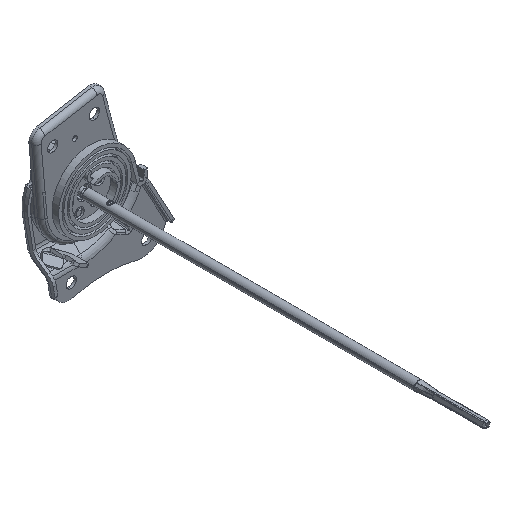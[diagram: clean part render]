
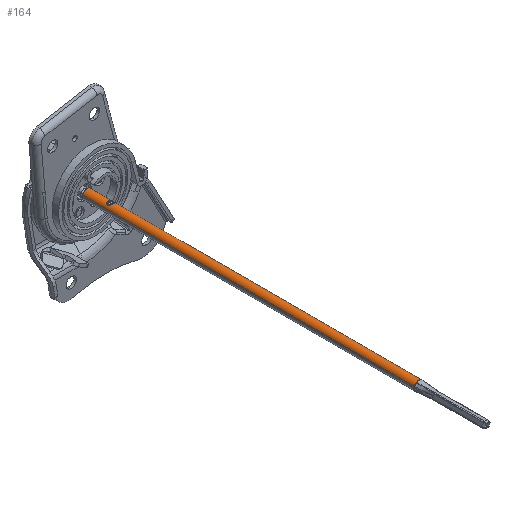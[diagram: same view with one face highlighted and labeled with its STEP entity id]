
A CAD part, isometric view. The second image highlights one B-rep face of the part: STEP entity #164.
In plain terms, the highlighted cylindrical face has radius 5 mm (diameter 10 mm), a partial arc.
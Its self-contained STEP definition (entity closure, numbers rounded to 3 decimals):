
#52=VECTOR('Line Direction',#51,1.) ;
#68=VECTOR('Line Direction',#67,1.) ;
#46=DIRECTION('Axis2P3D Direction',(0.002,-1.,0.)) ;
#47=DIRECTION('Axis2P3D XDirection',(0.964,0.001,-0.267)) ;
#51=DIRECTION('Vector Direction',(0.002,-1.,0.)) ;
#60=DIRECTION('Axis2P3D Direction',(0.002,-1.,0.)) ;
#67=DIRECTION('Vector Direction',(0.002,-1.,0.)) ;
#74=DIRECTION('Axis2P3D Direction',(0.002,-1.,0.)) ;
#81=DIRECTION('Axis2P3D Direction',(0.002,-1.,0.)) ;
#88=DIRECTION('Axis2P3D Direction',(0.002,-1.,0.)) ;
#45=CARTESIAN_POINT('Axis2P3D Location',(669.194,-702.521,471.257)) ;
#50=CARTESIAN_POINT('Line Origine',(674.012,-702.514,469.921)) ;
#54=CARTESIAN_POINT('Vertex',(673.737,-525.526,469.92)) ;
#56=CARTESIAN_POINT('Vertex',(674.285,-878.282,469.921)) ;
#59=CARTESIAN_POINT('Axis2P3D Location',(668.919,-525.533,471.256)) ;
#63=CARTESIAN_POINT('Vertex',(664.101,-525.541,472.593)) ;
#66=CARTESIAN_POINT('Line Origine',(664.376,-702.529,472.593)) ;
#70=CARTESIAN_POINT('Vertex',(664.648,-878.297,472.594)) ;
#73=CARTESIAN_POINT('Axis2P3D Location',(669.467,-878.29,471.258)) ;
#77=CARTESIAN_POINT('Vertex',(667.005,-878.294,475.609)) ;
#80=CARTESIAN_POINT('Axis2P3D Location',(669.467,-878.29,471.258)) ;
#84=CARTESIAN_POINT('Vertex',(673.818,-878.283,473.72)) ;
#87=CARTESIAN_POINT('Axis2P3D Location',(669.467,-878.29,471.258)) ;
#101=CARTESIAN_POINT('Control Point',(667.618,-548.604,476.075)) ;
#102=CARTESIAN_POINT('Control Point',(667.323,-548.715,475.993)) ;
#103=CARTESIAN_POINT('Control Point',(667.042,-548.851,475.89)) ;
#104=CARTESIAN_POINT('Control Point',(666.782,-549.018,475.772)) ;
#105=CARTESIAN_POINT('Control Point',(666.411,-549.349,475.569)) ;
#106=CARTESIAN_POINT('Control Point',(666.148,-549.78,475.396)) ;
#107=CARTESIAN_POINT('Control Point',(666.067,-549.958,475.338)) ;
#108=CARTESIAN_POINT('Control Point',(665.889,-550.521,475.207)) ;
#109=CARTESIAN_POINT('Control Point',(665.917,-551.143,475.223)) ;
#110=CARTESIAN_POINT('Control Point',(666.041,-551.535,475.325)) ;
#111=CARTESIAN_POINT('Control Point',(666.382,-552.098,475.56)) ;
#112=CARTESIAN_POINT('Control Point',(666.886,-552.495,475.815)) ;
#113=CARTESIAN_POINT('Control Point',(667.118,-552.634,475.915)) ;
#114=CARTESIAN_POINT('Control Point',(667.366,-552.75,476.003)) ;
#115=CARTESIAN_POINT('Control Point',(667.625,-552.846,476.075)) ;
#116=CARTESIAN_POINT('Vertex',(667.618,-548.604,476.075)) ;
#118=CARTESIAN_POINT('Vertex',(667.625,-552.846,476.075)) ;
#122=CARTESIAN_POINT('Control Point',(672.582,-548.596,474.698)) ;
#123=CARTESIAN_POINT('Control Point',(671.867,-548.223,475.451)) ;
#124=CARTESIAN_POINT('Control Point',(670.926,-547.986,476.064)) ;
#125=CARTESIAN_POINT('Control Point',(669.742,-547.988,476.394)) ;
#126=CARTESIAN_POINT('Control Point',(668.618,-548.228,476.352)) ;
#127=CARTESIAN_POINT('Control Point',(667.618,-548.604,476.075)) ;
#128=CARTESIAN_POINT('Vertex',(672.582,-548.596,474.698)) ;
#132=CARTESIAN_POINT('Control Point',(672.588,-552.839,474.698)) ;
#133=CARTESIAN_POINT('Control Point',(672.799,-552.728,474.476)) ;
#134=CARTESIAN_POINT('Control Point',(672.987,-552.592,474.243)) ;
#135=CARTESIAN_POINT('Control Point',(673.149,-552.425,474.008)) ;
#136=CARTESIAN_POINT('Control Point',(673.363,-552.094,473.642)) ;
#137=CARTESIAN_POINT('Control Point',(673.499,-551.664,473.358)) ;
#138=CARTESIAN_POINT('Control Point',(673.538,-551.486,473.266)) ;
#139=CARTESIAN_POINT('Control Point',(673.623,-550.923,473.062)) ;
#140=CARTESIAN_POINT('Control Point',(673.608,-550.301,473.09)) ;
#141=CARTESIAN_POINT('Control Point',(673.554,-549.909,473.24)) ;
#142=CARTESIAN_POINT('Control Point',(673.382,-549.345,473.617)) ;
#143=CARTESIAN_POINT('Control Point',(673.082,-548.948,474.095)) ;
#144=CARTESIAN_POINT('Control Point',(672.934,-548.809,474.301)) ;
#145=CARTESIAN_POINT('Control Point',(672.767,-548.693,474.503)) ;
#146=CARTESIAN_POINT('Control Point',(672.582,-548.596,474.698)) ;
#147=CARTESIAN_POINT('Vertex',(672.588,-552.839,474.698)) ;
#151=CARTESIAN_POINT('Control Point',(667.625,-552.846,476.075)) ;
#152=CARTESIAN_POINT('Control Point',(668.625,-553.219,476.352)) ;
#153=CARTESIAN_POINT('Control Point',(669.748,-553.455,476.393)) ;
#154=CARTESIAN_POINT('Control Point',(670.933,-553.454,476.066)) ;
#155=CARTESIAN_POINT('Control Point',(671.875,-553.214,475.451)) ;
#156=CARTESIAN_POINT('Control Point',(672.588,-552.839,474.698)) ;
#48=AXIS2_PLACEMENT_3D('Cylinder Axis2P3D',#45,#46,#47) ;
#61=AXIS2_PLACEMENT_3D('Circle Axis2P3D',#59,#60,$) ;
#75=AXIS2_PLACEMENT_3D('Circle Axis2P3D',#73,#74,$) ;
#82=AXIS2_PLACEMENT_3D('Circle Axis2P3D',#80,#81,$) ;
#89=AXIS2_PLACEMENT_3D('Circle Axis2P3D',#87,#88,$) ;
#163=FACE_BOUND('',#158,.T.) ;
#58=EDGE_CURVE('',#55,#57,#53,.T.) ;
#65=EDGE_CURVE('',#55,#64,#62,.T.) ;
#72=EDGE_CURVE('',#64,#71,#69,.T.) ;
#79=EDGE_CURVE('',#78,#71,#76,.T.) ;
#86=EDGE_CURVE('',#85,#78,#83,.T.) ;
#91=EDGE_CURVE('',#57,#85,#90,.T.) ;
#120=EDGE_CURVE('',#117,#119,#100,.T.) ;
#130=EDGE_CURVE('',#129,#117,#121,.T.) ;
#149=EDGE_CURVE('',#148,#129,#131,.T.) ;
#157=EDGE_CURVE('',#119,#148,#150,.T.) ;
#93=ORIENTED_EDGE('',*,*,#58,.F.) ;
#94=ORIENTED_EDGE('',*,*,#65,.T.) ;
#95=ORIENTED_EDGE('',*,*,#72,.T.) ;
#96=ORIENTED_EDGE('',*,*,#79,.F.) ;
#97=ORIENTED_EDGE('',*,*,#86,.F.) ;
#98=ORIENTED_EDGE('',*,*,#91,.F.) ;
#159=ORIENTED_EDGE('',*,*,#120,.F.) ;
#160=ORIENTED_EDGE('',*,*,#130,.F.) ;
#161=ORIENTED_EDGE('',*,*,#149,.F.) ;
#162=ORIENTED_EDGE('',*,*,#157,.F.) ;
#53=LINE('Line',#50,#52) ;
#69=LINE('Line',#66,#68) ;
#164=ADVANCED_FACE('\X2\51E04F554F53\X0\.2',(#99,#163),#49,.T.) ;
#62=CIRCLE('generated circle',#61,5.) ;
#76=CIRCLE('generated circle',#75,5.) ;
#83=CIRCLE('generated circle',#82,5.) ;
#90=CIRCLE('generated circle',#89,5.) ;
#49=CYLINDRICAL_SURFACE('generated cylinder',#48,5.) ;
#55=VERTEX_POINT('',#54) ;
#57=VERTEX_POINT('',#56) ;
#64=VERTEX_POINT('',#63) ;
#71=VERTEX_POINT('',#70) ;
#78=VERTEX_POINT('',#77) ;
#85=VERTEX_POINT('',#84) ;
#117=VERTEX_POINT('',#116) ;
#119=VERTEX_POINT('',#118) ;
#129=VERTEX_POINT('',#128) ;
#148=VERTEX_POINT('',#147) ;
#100=B_SPLINE_CURVE_WITH_KNOTS('',5,(#101,#102,#103,#104,#105,#106,#107,#108,#109,#110,#111,#112,#113,#114,#115),.UNSPECIFIED.,.F.,.U.,(6,3,3,3,6),(0.,2.337,3.762,6.579,8.626),.UNSPECIFIED.) ;
#121=B_SPLINE_CURVE_WITH_KNOTS('',5,(#122,#123,#124,#125,#126,#127),.UNSPECIFIED.,.F.,.U.,(6,6),(0.,7.968),.UNSPECIFIED.) ;
#131=B_SPLINE_CURVE_WITH_KNOTS('',5,(#132,#133,#134,#135,#136,#137,#138,#139,#140,#141,#142,#143,#144,#145,#146),.UNSPECIFIED.,.F.,.U.,(6,3,3,3,6),(0.,2.337,3.762,6.579,8.626),.UNSPECIFIED.) ;
#150=B_SPLINE_CURVE_WITH_KNOTS('',5,(#151,#152,#153,#154,#155,#156),.UNSPECIFIED.,.F.,.U.,(6,6),(0.,7.968),.UNSPECIFIED.) ;
#92=EDGE_LOOP('',(#93,#94,#95,#96,#97,#98)) ;
#158=EDGE_LOOP('',(#159,#160,#161,#162)) ;
#99=FACE_OUTER_BOUND('',#92,.T.) ;
